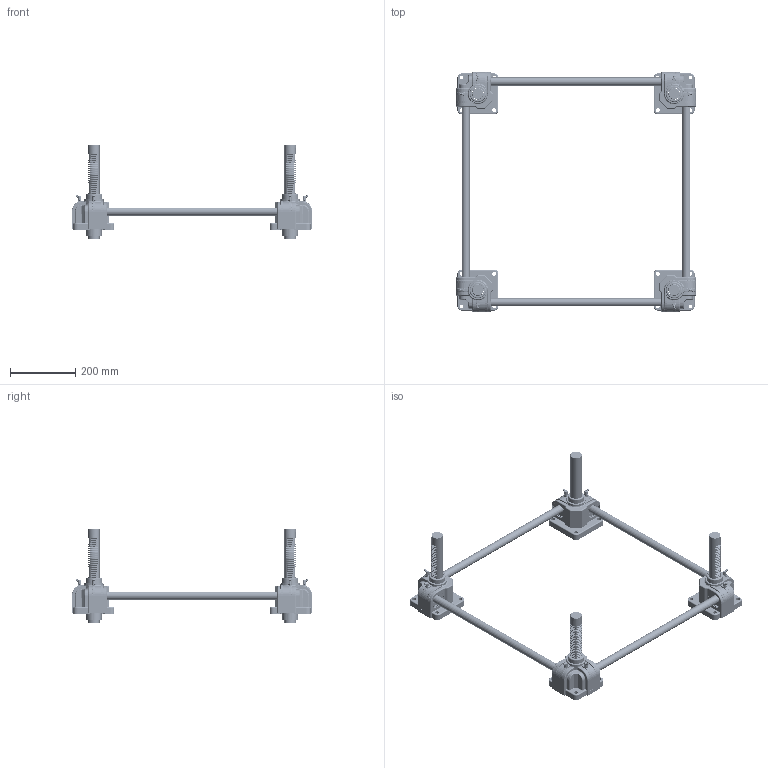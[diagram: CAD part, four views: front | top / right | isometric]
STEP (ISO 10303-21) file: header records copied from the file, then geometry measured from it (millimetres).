
FILE_DESCRIPTION(('STEP AP203'),'1');
FILE_NAME('SP1500U-600x600-150ST.stp','2022-06-15T01:50:28',(' '),(' '),'Spatial InterOp 3D',' ',' ');
FILE_SCHEMA(('CONFIG_CONTROL_DESIGN'));
Length unit declared in the file: millimetre
Products named in the file (59): SP1500U-600x600-150ST; ASSEM1; Body.1-Part; SnapRing-55Pie; b6205zz; Nipple; Gear Box.1(NSP-1500); RJ05-4SCJ-610X600-100ST_CAP; LABEL-B.1; ___; 파트18; __ SP500; Body.2-Part; Gear Box.2(NSP-1500); Body.3-Part; Gear Box.3(NSP-1500); Body.4-Part; Gear Box.4(NSP-1500); Shaft.1; Shaft.2
Assembly tree (60 placements, depth 6):
  SP1500U-600x600-150ST
    ASSEM1
    (unnamed)
    (unnamed)
    (unnamed)
    Body.1-Part
      SnapRing-55Pie
      SnapRing-55Pie
      b6205zz
      b6205zz
      Nipple
      Nipple
      Gear Box.1(NSP-1500)
      __ SP500
        ___
          RJ05-4SCJ-610X600-100ST_CAP
            LABEL-B.1
          파트18
    Body.2-Part
      Nipple
      Nipple
      SnapRing-55Pie
      SnapRing-55Pie
      b6205zz
      b6205zz
      Gear Box.2(NSP-1500)
      __ SP500
        ___
          RJ05-4SCJ-610X600-100ST_CAP
            LABEL-B.1
          파트18
    Body.3-Part
      Nipple
      Nipple
      SnapRing-55Pie
      SnapRing-55Pie
      b6205zz
      b6205zz
      Gear Box.3(NSP-1500)
      __ SP500
        ___
          RJ05-4SCJ-610X600-100ST_CAP
            LABEL-B.1
          파트18
    Body.4-Part
      Nipple
      Nipple
      SnapRing-55Pie
      SnapRing-55Pie
      b6205zz
      b6205zz
      Gear Box.4(NSP-1500)
      __ SP500
        ___
          RJ05-4SCJ-610X600-100ST_CAP
            LABEL-B.1
          파트18
    Shaft.1  x2
    Shaft.2  x2
Bounding box: 735.44 x 735.44 x 290 mm (x, y, z)
Volume: 4122979.5 mm3; surface area: 982210.5 mm2
Topology: 64 solids, 64 shells, 10272 faces, 28518 edges, 18446 vertices
Faces by surface type: plane 7532, cylinder 1648, torus 432, bspline 224, revolution 168, extrusion 152, sphere 88, cone 28
Full cylindrical faces by diameter (mm): 3.087 x16, 4.8 x8, 8 x8, 9.886 x8, 10 x8, 12 x16, 16 x4, 25 x20, 28 x8, 32.5 x16, 35 x4, 36 x4, 39 x12, 39.4 x4, 41 x8, 46.1 x16, 48 x4, 50 x12, 52 x24, 55 x8, 59 x4
Entity records: 350632 total; most frequent: CARTESIAN_POINT 94129, ORIENTED_EDGE 54784, DIRECTION 47770, EDGE_CURVE 27392, VECTOR 21956, LINE 21804, VERTEX_POINT 18000, AXIS2_PLACEMENT_3D 12823
